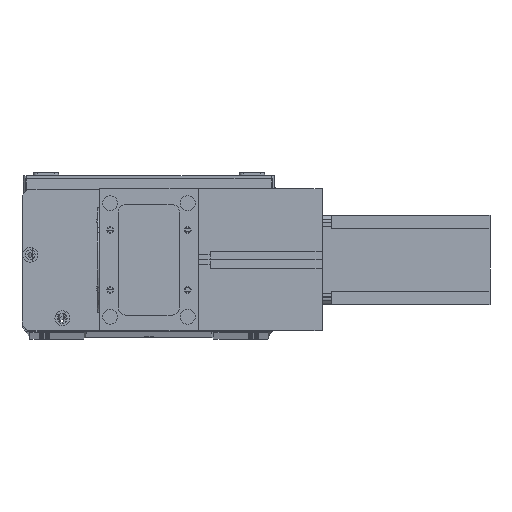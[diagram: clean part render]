
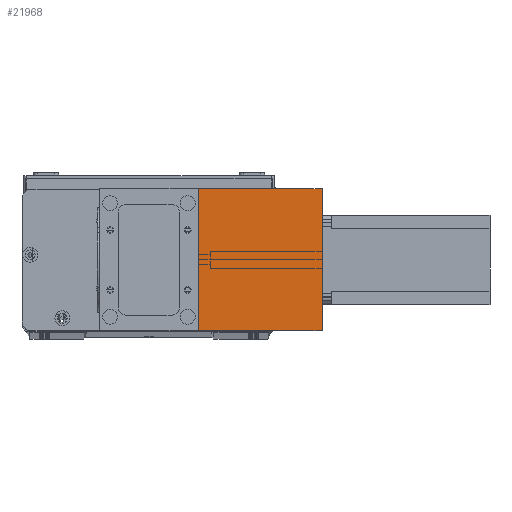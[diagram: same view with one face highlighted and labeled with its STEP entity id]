
A CAD part, top view. The second image highlights one B-rep face of the part: STEP entity #21968.
In plain terms, the highlighted planar face has unit normal (0, 0, 1) as drawn and (1, 0, 0) by its records, which use the part's own axes.
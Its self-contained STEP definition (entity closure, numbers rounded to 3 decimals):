
#1863 = LINE ( 'NONE', #6939, #20926 ) ;
#2510 = VERTEX_POINT ( 'NONE', #2735 ) ;
#2735 = CARTESIAN_POINT ( 'NONE',  ( 82., 95., 0. ) ) ;
#2838 = ORIENTED_EDGE ( 'NONE', *, *, #15655, .T. ) ;
#4332 = VERTEX_POINT ( 'NONE', #28751 ) ;
#4362 = AXIS2_PLACEMENT_3D ( 'NONE', #24050, #28564, #28665 ) ;
#5495 = FACE_OUTER_BOUND ( 'NONE', #18425, .T. ) ;
#6939 = CARTESIAN_POINT ( 'NONE',  ( 82., 0., 0. ) ) ;
#7474 = CARTESIAN_POINT ( 'NONE',  ( 82., 95., 83. ) ) ;
#8413 = ORIENTED_EDGE ( 'NONE', *, *, #15457, .T. ) ;
#8669 = LINE ( 'NONE', #24390, #14253 ) ;
#9377 = VECTOR ( 'NONE', #12753, 1000. ) ;
#12440 = DIRECTION ( 'NONE',  ( 0., 1., 0. ) ) ;
#12753 = DIRECTION ( 'NONE',  ( 0., 0., -1. ) ) ;
#13899 = ORIENTED_EDGE ( 'NONE', *, *, #19292, .F. ) ;
#14253 = VECTOR ( 'NONE', #17382, 1000. ) ;
#15161 = ORIENTED_EDGE ( 'NONE', *, *, #24616, .F. ) ;
#15237 = CARTESIAN_POINT ( 'NONE',  ( 82., 95., 83. ) ) ;
#15457 = EDGE_CURVE ( 'NONE', #4332, #2510, #1863, .T. ) ;
#15655 = EDGE_CURVE ( 'NONE', #26789, #4332, #8669, .T. ) ;
#15713 = LINE ( 'NONE', #15237, #9377 ) ;
#17382 = DIRECTION ( 'NONE',  ( 0., 0., -1. ) ) ;
#17704 = LINE ( 'NONE', #26546, #29233 ) ;
#18425 = EDGE_LOOP ( 'NONE', ( #8413, #13899, #15161, #2838 ) ) ;
#19292 = EDGE_CURVE ( 'NONE', #19789, #2510, #15713, .T. ) ;
#19789 = VERTEX_POINT ( 'NONE', #7474 ) ;
#20926 = VECTOR ( 'NONE', #25688, 1000. ) ;
#21968 = ADVANCED_FACE ( 'NONE', ( #5495 ), #26368, .F. ) ;
#24050 = CARTESIAN_POINT ( 'NONE',  ( 82., 0., 83. ) ) ;
#24390 = CARTESIAN_POINT ( 'NONE',  ( 82., 0., 83. ) ) ;
#24616 = EDGE_CURVE ( 'NONE', #26789, #19789, #17704, .T. ) ;
#25688 = DIRECTION ( 'NONE',  ( 0., 1., 0. ) ) ;
#26368 = PLANE ( 'NONE',  #4362 ) ;
#26546 = CARTESIAN_POINT ( 'NONE',  ( 82., 0., 83. ) ) ;
#26789 = VERTEX_POINT ( 'NONE', #29781 ) ;
#28564 = DIRECTION ( 'NONE',  ( -1., 0., 0. ) ) ;
#28665 = DIRECTION ( 'NONE',  ( 0., 0., 1. ) ) ;
#28751 = CARTESIAN_POINT ( 'NONE',  ( 82., 0., 0. ) ) ;
#29233 = VECTOR ( 'NONE', #12440, 1000. ) ;
#29781 = CARTESIAN_POINT ( 'NONE',  ( 82., 0., 83. ) ) ;
